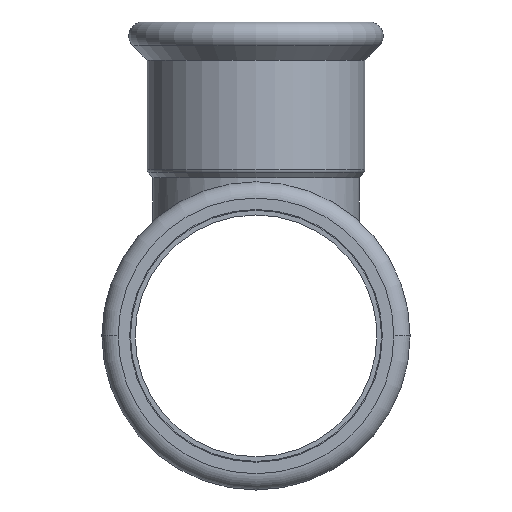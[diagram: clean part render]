
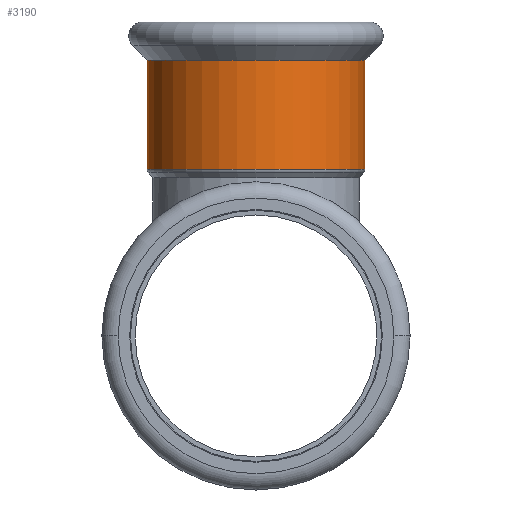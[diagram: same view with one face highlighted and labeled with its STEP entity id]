
A CAD part, left-side view. The second image highlights one B-rep face of the part: STEP entity #3190.
In plain terms, the highlighted cylindrical face has radius 46.85 mm (diameter 93.7 mm), a partial arc.
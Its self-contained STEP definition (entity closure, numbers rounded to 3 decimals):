
#1780=CARTESIAN_POINT('',(54.615,-46.85,0.));
#1790=VERTEX_POINT('',#1780);
#1970=CARTESIAN_POINT('',(54.615,46.85,0.))
;
#1980=VERTEX_POINT('',#1970);
#2010=CARTESIAN_POINT('',(54.615,0.,0.));
#2020=DIRECTION('',(1.,0.,0.));
#2030=DIRECTION('',(0.,1.,0.));
#2040=AXIS2_PLACEMENT_3D('',#2010,#2020,#2030);
#2050=CIRCLE('',#2040,46.85);
#2870=CARTESIAN_POINT('',(45.44,0.,0.));
#2880=DIRECTION('',(-1.,0.,0.));
#2890=DIRECTION('',(0.,1.,0.));
#2900=AXIS2_PLACEMENT_3D('',#2870,#2880,#2890);
#2910=CYLINDRICAL_SURFACE('',#2900,46.85);
#2920=CARTESIAN_POINT('',(45.44,46.85,0.));
#2930=DIRECTION('',(-1.,0.,0.));
#2940=VECTOR('',#2930,1.);
#2950=LINE('',#2920,#2940);
#2960=CARTESIAN_POINT('',(7.588,46.85,0.));
#2970=VERTEX_POINT('',#2960);
#2980=EDGE_CURVE('',#1980,#2970,#2950,.T.);
#2990=ORIENTED_EDGE('',*,*,#2980,.T.);
#3000=EDGE_CURVE('',#1980,#1790,#2050,.T.);
#3010=ORIENTED_EDGE('',*,*,#3000,.F.);
#3020=CARTESIAN_POINT('',(45.44,-46.85,0.)
);
#3030=DIRECTION('',(-1.,0.,0.));
#3040=VECTOR('',#3030,1.);
#3050=LINE('',#3020,#3040);
#3060=CARTESIAN_POINT('',(7.588,-46.85,0.));
#3070=VERTEX_POINT('',#3060);
#3080=EDGE_CURVE('',#1790,#3070,#3050,.T.);
#3090=ORIENTED_EDGE('',*,*,#3080,.F.);
#3100=CARTESIAN_POINT('',(7.588,0.,0.));
#3110=DIRECTION('',(-1.,0.,0.));
#3120=DIRECTION('',(0.,1.,0.));
#3130=AXIS2_PLACEMENT_3D('',#3100,#3110,#3120);
#3140=CIRCLE('',#3130,46.85);
#3150=EDGE_CURVE('',#3070,#2970,#3140,.T.);
#3160=ORIENTED_EDGE('',*,*,#3150,.F.);
#3170=EDGE_LOOP('',(#3160,#3090,#3010,#2990));
#3180=FACE_OUTER_BOUND('',#3170,.T.);
#3190=ADVANCED_FACE('',(#3180),#2910,.T.);
